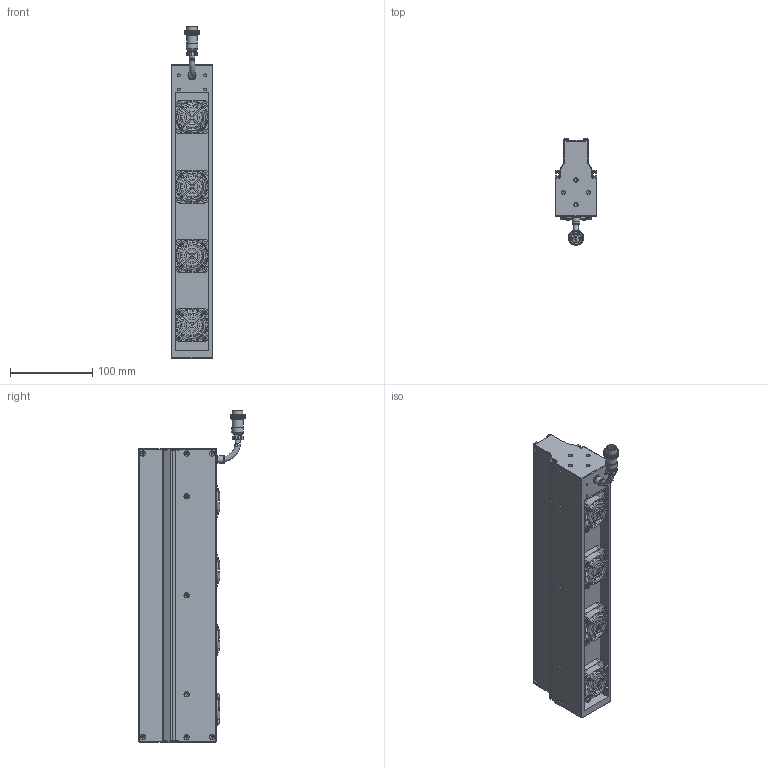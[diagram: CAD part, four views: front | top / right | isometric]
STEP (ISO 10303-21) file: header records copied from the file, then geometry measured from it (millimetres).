
FILE_DESCRIPTION (( 'STEP AP203' ), '1' );
FILE_NAME ('OPT-LSS356-W-V3.1U尨砩芞.STEP', '2025-01-21T01:37:24', ( 'USER' ), ( '' ), 'SwSTEP 2.0', 'SolidWorks 2016', '' );
FILE_SCHEMA (( 'CONFIG_CONTROL_DESIGN' ));
Products named in the file (2): OPT-LSS356-W-V3.1U尨砩芞
Bounding box: 50 x 129.15 x 402.83 mm (x, y, z)
Volume: 1212269.3 mm3; surface area: 217956.1 mm2
Topology: 22 solids, 34 shells, 4282 faces, 9555 edges, 5448 vertices
Faces by surface type: bspline 2179, cylinder 924, plane 890, torus 236, cone 53
Full cylindrical faces by diameter (mm): 0.95 x6, 1.1 x2, 1.4 x2, 1.6 x16, 2 x8, 2.5 x18, 3 x4, 3.2 x20, 3.4 x18, 3.5 x8, 5 x8, 6.2 x16, 6.4 x3, 7.5 x1, 8.6 x1, 9.3 x1, 9.8 x1, 10 x1, 13.2 x1, 14 x1, 16.1 x1, 24.8 x4, 38 x4
Entity records: 154027 total; most frequent: CARTESIAN_POINT 80113, ORIENTED_EDGE 18326, EDGE_CURVE 9163, DIRECTION 8558, B_SPLINE_CURVE_WITH_KNOTS 5926, VERTEX_POINT 5358, EDGE_LOOP 4725, FACE_OUTER_BOUND 4515
